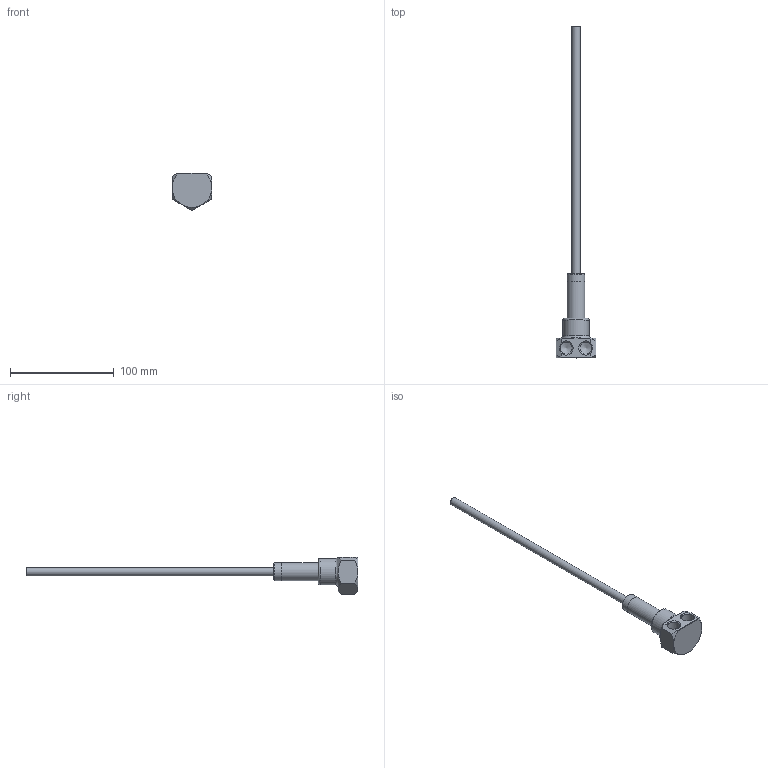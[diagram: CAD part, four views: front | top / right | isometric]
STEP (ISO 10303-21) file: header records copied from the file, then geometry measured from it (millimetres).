
FILE_DESCRIPTION(/* description */ (''),/* implementation_level */ '2;1');
FILE_NAME(/* name */ 'C:/Users/drich/Desktop/ET3814 v1.step',/* time_stamp */ '2020-01-15T19:50:38-06:00',/* author */ (''),/* organization */ (''),/* preprocessor_version */ 'ST-DEVELOPER v18',/* originating_system */ 'Autodesk Translation Framework v8.12.0.6',/* authorisation */ '');
FILE_SCHEMA (('AUTOMOTIVE_DESIGN { 1 0 10303 214 3 1 1 }'));
Length unit declared in the file: inch
Products named in the file (4): ET3814; ET3814H; SSPN38-2; HF312T-12
Assembly tree (3 placements, depth 2):
  ET3814
    ET3814H
    SSPN38-2
    HF312T-12
Bounding box: 38.1 x 319.53 x 35.71 mm (x, y, z)
Volume: 30785.7 mm3; surface area: 28064 mm2
Topology: 3 solids, 3 shells, 63 faces, 168 edges, 113 vertices
Faces by surface type: plane 22, cylinder 18, cone 15, torus 5, bspline 3
Full cylindrical faces by diameter (mm): 7.315 x1, 7.925 x1, 8.509 x1, 9.406 x1, 9.576 x1, 11.668 x2, 12.522 x1, 15.173 x1, 17.094 x2, 17.145 x1, 25.4 x1
Entity records: 2301 total; most frequent: CARTESIAN_POINT 603, DIRECTION 353, ORIENTED_EDGE 332, EDGE_CURVE 166, AXIS2_PLACEMENT_3D 153, VERTEX_POINT 113, CIRCLE 81, EDGE_LOOP 75
